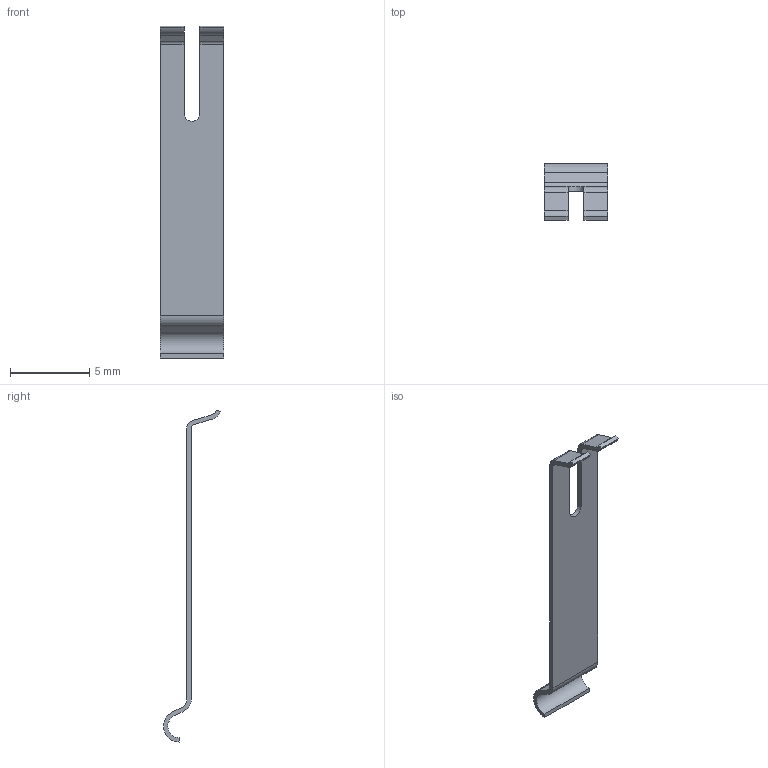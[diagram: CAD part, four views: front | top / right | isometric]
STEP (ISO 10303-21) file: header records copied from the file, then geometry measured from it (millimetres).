
FILE_DESCRIPTION (( 'STEP AP214' ), '1' );
FILE_NAME ('switch_lever.STEP', '2018-02-15T22:12:39', ( '' ), ( '' ), 'SwSTEP 2.0', 'SolidWorks 2018', '' );
FILE_SCHEMA (( 'AUTOMOTIVE_DESIGN' ));
Length unit declared in the file: millimetre
Products named in the file (1): switch_lever
Bounding box: 4 x 3.58 x 20.93 mm (x, y, z)
Volume: 23.1 mm3; surface area: 189.6 mm2
Topology: 1 solids, 1 shells, 28 faces, 78 edges, 52 vertices
Faces by surface type: plane 15, cylinder 13
Entity records: 942 total; most frequent: DIRECTION 162, CARTESIAN_POINT 159, ORIENTED_EDGE 156, EDGE_CURVE 78, AXIS2_PLACEMENT_3D 55, VECTOR 52, LINE 52, VERTEX_POINT 52
